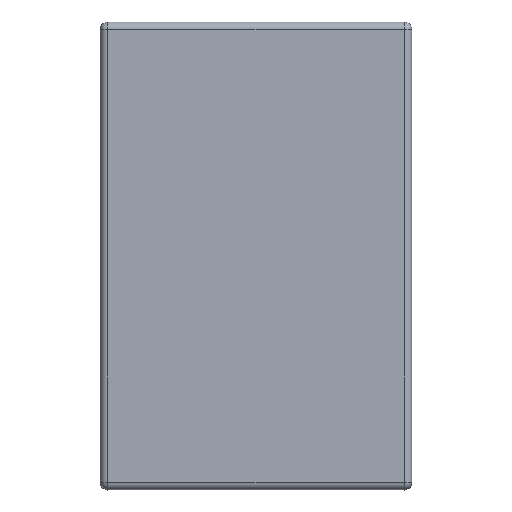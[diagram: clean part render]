
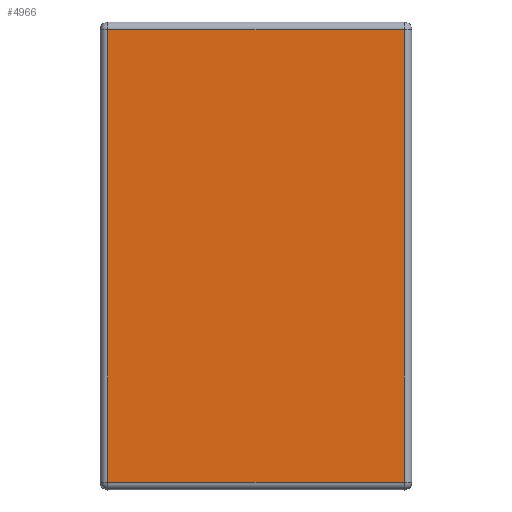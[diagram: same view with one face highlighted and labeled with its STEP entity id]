
A CAD part, top view. The second image highlights one B-rep face of the part: STEP entity #4966.
In plain terms, the highlighted planar face has unit normal (0, 0, 1).
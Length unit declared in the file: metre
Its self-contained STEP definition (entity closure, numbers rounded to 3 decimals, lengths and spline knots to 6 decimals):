
#463=LINE('',#10120,#924);
#464=LINE('',#10123,#925);
#465=LINE('',#10125,#926);
#466=LINE('',#10127,#927);
#924=VECTOR('',#7499,1.);
#925=VECTOR('',#7500,1.);
#926=VECTOR('',#7501,1.);
#927=VECTOR('',#7502,1.);
#2298=ORIENTED_EDGE('',*,*,#3226,.T.);
#2299=ORIENTED_EDGE('',*,*,#3227,.T.);
#2300=ORIENTED_EDGE('',*,*,#3228,.T.);
#2301=ORIENTED_EDGE('',*,*,#3229,.T.);
#3226=EDGE_CURVE('',#3708,#3709,#463,.T.);
#3227=EDGE_CURVE('',#3709,#3710,#464,.T.);
#3228=EDGE_CURVE('',#3710,#3711,#465,.T.);
#3229=EDGE_CURVE('',#3711,#3708,#466,.T.);
#3708=VERTEX_POINT('',#10121);
#3709=VERTEX_POINT('',#10122);
#3710=VERTEX_POINT('',#10124);
#3711=VERTEX_POINT('',#10126);
#4024=EDGE_LOOP('',(#2298,#2299,#2300,#2301));
#4301=FACE_BOUND('',#4024,.T.);
#4474=PLANE('',#6712);
#4966=ADVANCED_FACE('',(#4301),#4474,.F.);
#6712=AXIS2_PLACEMENT_3D('',#10119,#7497,#7498);
#7497=DIRECTION('',(0.,0.,-1.));
#7498=DIRECTION('',(0.,-1.,0.));
#7499=DIRECTION('',(-1.,0.,0.));
#7500=DIRECTION('',(0.,-1.,0.));
#7501=DIRECTION('',(1.,0.,0.));
#7502=DIRECTION('',(0.,1.,0.));
#10119=CARTESIAN_POINT('',(-0.138218,-0.032902,0.00789));
#10120=CARTESIAN_POINT('',(-0.138218,-0.032322,0.00789));
#10121=CARTESIAN_POINT('',(-0.137838,-0.032322,0.00789));
#10122=CARTESIAN_POINT('',(-0.138598,-0.032322,0.00789));
#10123=CARTESIAN_POINT('',(-0.138598,-0.032902,0.00789));
#10124=CARTESIAN_POINT('',(-0.138598,-0.033482,0.00789));
#10125=CARTESIAN_POINT('',(-0.138218,-0.033482,0.00789));
#10126=CARTESIAN_POINT('',(-0.137838,-0.033482,0.00789));
#10127=CARTESIAN_POINT('',(-0.137838,-0.032902,0.00789));
